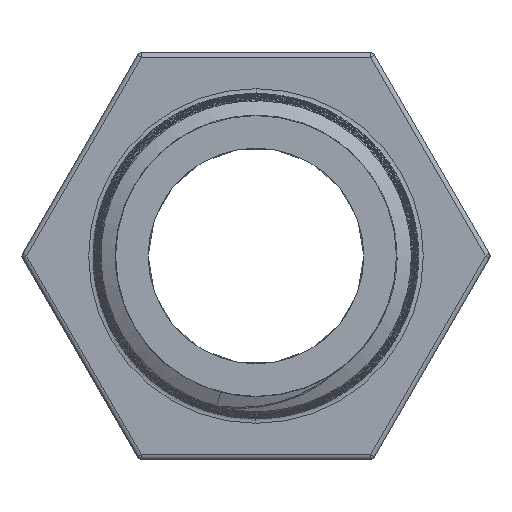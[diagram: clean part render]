
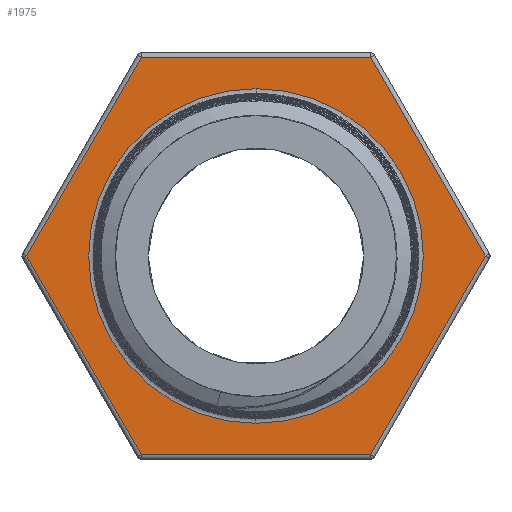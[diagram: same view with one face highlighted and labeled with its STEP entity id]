
A CAD part, front view. The second image highlights one B-rep face of the part: STEP entity #1975.
In plain terms, the highlighted planar face has unit normal (0, -1, 0).
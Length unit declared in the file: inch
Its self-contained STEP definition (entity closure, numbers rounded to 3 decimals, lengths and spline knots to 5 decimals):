
#295=CIRCLE('',#2109,0.70866);
#296=CIRCLE('',#2110,0.70866);
#366=VERTEX_POINT('',#2550);
#367=VERTEX_POINT('',#2551);
#368=VERTEX_POINT('',#2553);
#369=VERTEX_POINT('',#2555);
#370=VERTEX_POINT('',#2557);
#371=VERTEX_POINT('',#2559);
#372=VERTEX_POINT('',#2562);
#373=VERTEX_POINT('',#2563);
#561=VECTOR('',#2233,1.);
#562=VECTOR('',#2234,1.);
#563=VECTOR('',#2235,1.);
#564=VECTOR('',#2236,1.);
#565=VECTOR('',#2237,1.);
#566=VECTOR('',#2238,1.);
#646=LINE('',#2549,#561);
#647=LINE('',#2552,#562);
#648=LINE('',#2554,#563);
#649=LINE('',#2556,#564);
#650=LINE('',#2558,#565);
#651=LINE('',#2560,#566);
#731=EDGE_CURVE('',#366,#367,#646,.T.);
#732=EDGE_CURVE('',#367,#368,#647,.T.);
#733=EDGE_CURVE('',#368,#369,#648,.T.);
#734=EDGE_CURVE('',#369,#370,#649,.T.);
#735=EDGE_CURVE('',#370,#371,#650,.T.);
#736=EDGE_CURVE('',#371,#366,#651,.T.);
#737=EDGE_CURVE('',#372,#373,#295,.F.);
#738=EDGE_CURVE('',#373,#372,#296,.F.);
#1053=ORIENTED_EDGE('',*,*,#731,.T.);
#1054=ORIENTED_EDGE('',*,*,#732,.T.);
#1055=ORIENTED_EDGE('',*,*,#733,.T.);
#1056=ORIENTED_EDGE('',*,*,#734,.T.);
#1057=ORIENTED_EDGE('',*,*,#735,.T.);
#1058=ORIENTED_EDGE('',*,*,#736,.T.);
#1059=ORIENTED_EDGE('',*,*,#737,.F.);
#1060=ORIENTED_EDGE('',*,*,#738,.F.);
#1697=EDGE_LOOP('',(#1053,#1054,#1055,#1056,#1057,#1058));
#1698=EDGE_LOOP('',(#1059,#1060));
#1836=FACE_BOUND('',#1697,.T.);
#1837=FACE_BOUND('',#1698,.T.);
#1975=ADVANCED_FACE('',(#1836,#1837),#40813,.F.);
#2108=AXIS2_PLACEMENT_3D('',#2548,#2232,$);
#2109=AXIS2_PLACEMENT_3D('',#2561,#2239,#2240);
#2110=AXIS2_PLACEMENT_3D('',#2564,#2241,#2242);
#2232=DIRECTION('',(0.,1.,0.));
#2233=DIRECTION('',(1.,0.,0.));
#2234=DIRECTION('',(0.5,0.,0.866));
#2235=DIRECTION('',(-0.5,0.,0.866));
#2236=DIRECTION('',(-1.,0.,0.));
#2237=DIRECTION('',(-0.5,0.,-0.866));
#2238=DIRECTION('',(0.5,0.,-0.866));
#2239=DIRECTION('',(0.,1.,0.));
#2240=DIRECTION('',(0.,0.,0.709));
#2241=DIRECTION('',(0.,1.,0.));
#2242=DIRECTION('',(0.,0.,0.709));
#2548=CARTESIAN_POINT('',(0.,-0.18504,0.));
#2549=CARTESIAN_POINT('',(-3.5859,-0.18504,-0.84123));
#2550=CARTESIAN_POINT('',(-0.48568,-0.18504,-0.84123));
#2551=CARTESIAN_POINT('',(0.48568,-0.18504,-0.84123));
#2552=CARTESIAN_POINT('',(-0.82158,-0.18504,-3.10548));
#2553=CARTESIAN_POINT('',(0.97136,-0.18504,0.));
#2554=CARTESIAN_POINT('',(2.76431,-0.18504,-3.10548));
#2555=CARTESIAN_POINT('',(0.48568,-0.18504,0.84123));
#2556=CARTESIAN_POINT('',(3.5859,-0.18504,0.84123));
#2557=CARTESIAN_POINT('',(-0.48568,-0.18504,0.84123));
#2558=CARTESIAN_POINT('',(0.82158,-0.18504,3.10548));
#2559=CARTESIAN_POINT('',(-0.97136,-0.18504,0.));
#2560=CARTESIAN_POINT('',(-2.76431,-0.18504,3.10548));
#2561=CARTESIAN_POINT('',(0.,-0.18504,0.));
#2562=CARTESIAN_POINT('',(0.,-0.18504,0.70866));
#2563=CARTESIAN_POINT('',(0.,-0.18504,-0.70866));
#2564=CARTESIAN_POINT('',(0.,-0.18504,0.));
#40813=PLANE('',#2108);
